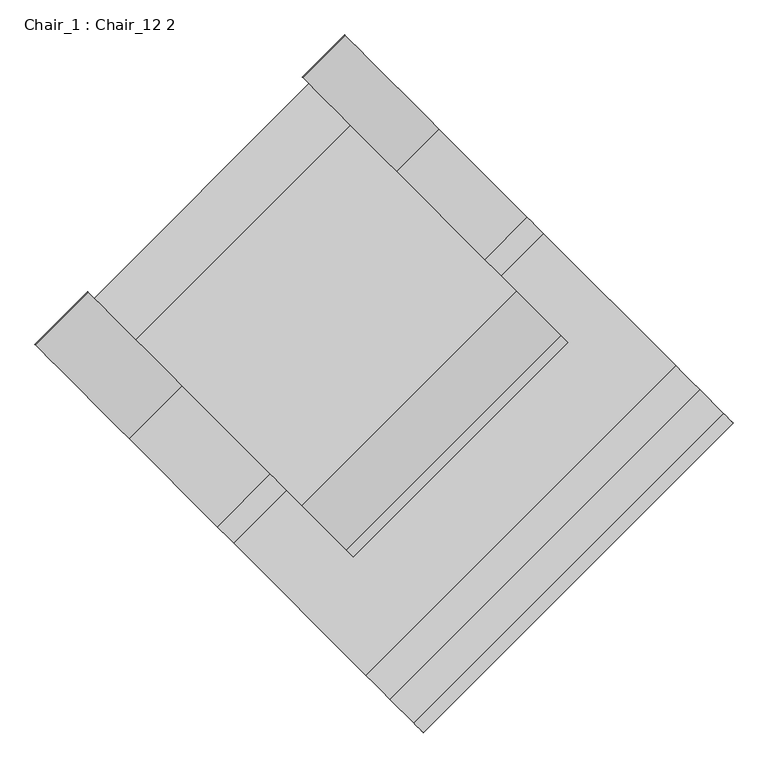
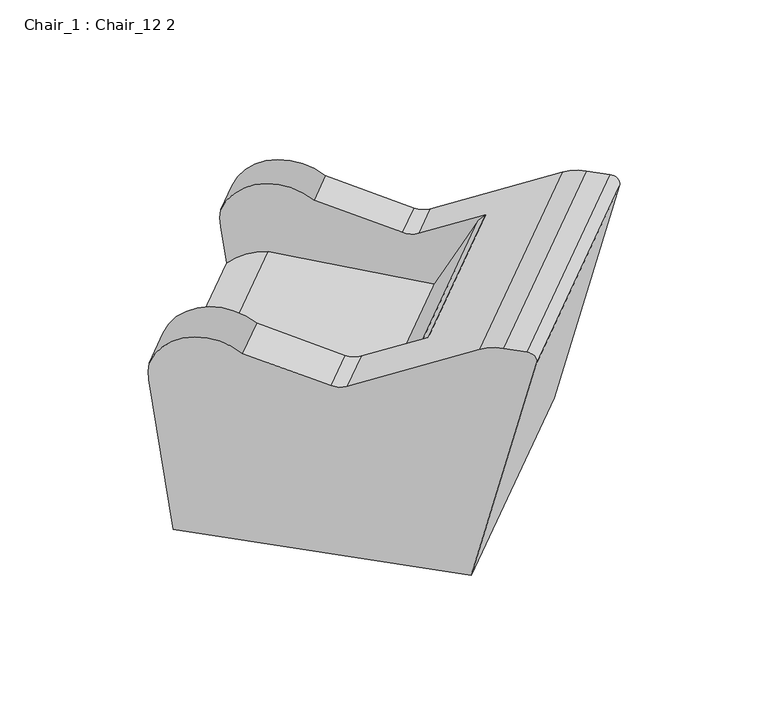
"""IFC4 building model written with IfcOpenShell, lengths in millimetres: furniture geometry, Chair_1 : Chair_12 2."""

from ifc_helpers import new_model, si_unit, frame, origin, place, context, project, spatial, polyline, circle_curve, source, transform, mapped, element, save
from ifc_brep_helpers import plane_surface, cylinder_surface, revolved_surface, advanced_brep


def chair_1_chair_12_2_918bc6ad(model_context):
    return source(origin(), model_context, "Body", "AdvancedBrep", [
        advanced_brep(
        [(-66.17603, 617.2632265, 441.2901984), (-65.8440101, 616.9312066, 492.4493711), (103.201702, 447.8854945, 564.2539103), (262.7664903, 288.3207061, 507.9908803), (292.2915528, 258.7956437, 512.7482324), (531.8039862, 19.2832103, 685.335575), (575.1416539, -24.0544575, 700.0496943), (617.9858384, -66.8986419, 700.0496943), (635.1384056, -84.0512091, 669.0016469), (517.1923973, 33.8947992, 0.0), (-22.3217675, 573.408964, 0.0), (-626.7518174, 56.6874392, 441.2901984), (-582.8975549, 12.8331766, 0.0), (-43.38339, -526.6809882, 0.0), (74.5626182, -644.6269965, 669.0016469), (57.410051, -627.4744293, 700.0496943), (14.5658666, -584.6302448, 700.0496943), (-28.7718012, -541.2925771, 685.335575), (-268.2842346, -301.7801437, 512.7482324), (-297.809297, -272.2550812, 507.9908803), (-457.3740854, -112.6902929, 564.2539103), (-626.4197975, 56.3554192, 492.4493711), (-142.6296492, 540.8096073, 441.2901984), (-142.2976293, 540.4775874, 492.4493711), (-530.9889965, 151.7862202, 492.4493711), (-531.3210164, 152.1182401, 441.2901984), (26.7480828, 371.4318753, 564.2539103), (-361.9432844, -17.2594919, 564.2539103), (186.3128712, 211.8670869, 507.9908803), (-202.378496, -176.8242803, 507.9908803), (215.8379336, 182.3420245, 512.7482324), (-172.8534336, -206.3493427, 512.7482324), (337.2732566, 60.9067015, 600.2518304), (-51.4181106, -327.7846657, 600.2518304), (-520.5398165, 141.3370402, 332.8027313), (-131.8484493, 530.0284074, 332.8027313), (243.6999015, 154.4800566, 365.3983957), (324.1151289, 74.0648292, 579.2827063), (-56.4086278, 454.5885859, 387.6411771), (-144.9914657, -234.2113106, 365.3983957), (-445.099995, 65.8972187, 387.6411771), (-64.5762383, -314.626538, 579.2827063)],
        [
            (0, 1, circle_curve(frame((62.6892224, 488.3979741, 465.1992842), z_axis=(0.7071067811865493, 0.7071067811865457, 0.0), x_axis=(0.7071067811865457, -0.7071067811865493, 0.0)), 183.8046543)),
            (1, 2, circle_curve(frame((37.849582, 513.2376145, 438.0862962), z_axis=(0.7071067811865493, 0.7071067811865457, 0.0), x_axis=(0.7071067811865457, -0.7071067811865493, 0.0)), 156.3971419)),
            (2, 3),
            (3, 4, circle_curve(frame((273.0303671, 278.0568293, 566.2086239), z_axis=(-0.7071067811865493, -0.7071067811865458, 0.0), x_axis=(0.7071067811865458, -0.7071067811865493, 0.0)), 60.0)),
            (4, 5),
            (5, 6, circle_curve(frame((575.1416539, -24.0544575, 565.0496943), z_axis=(0.7071067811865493, 0.7071067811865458, 0.0), x_axis=(0.7071067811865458, -0.7071067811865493, 0.0)), 135.0)),
            (6, 7),
            (7, 8, circle_curve(frame((617.9858384, -66.8986419, 675.0496943), z_axis=(0.7071067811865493, 0.7071067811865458, 0.0), x_axis=(0.7071067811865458, -0.7071067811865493, 0.0)), 25.0)),
            (8, 9),
            (9, 10),
            (10, 0),
            (11, 12),
            (12, 13),
            (13, 14),
            (14, 15, circle_curve(frame((57.410051, -627.4744293, 675.0496943), z_axis=(-0.7071067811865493, -0.7071067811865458, 0.0), x_axis=(0.7071067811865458, -0.7071067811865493, 0.0)), 25.0)),
            (15, 16),
            (16, 17, circle_curve(frame((14.5658666, -584.6302448, 565.0496943), z_axis=(-0.7071067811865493, -0.7071067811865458, 0.0), x_axis=(0.7071067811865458, -0.7071067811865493, 0.0)), 135.0)),
            (17, 18),
            (18, 19, circle_curve(frame((-287.5454202, -282.518958, 566.2086239), z_axis=(0.7071067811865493, 0.7071067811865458, 0.0), x_axis=(0.7071067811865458, -0.7071067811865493, 0.0)), 60.0)),
            (19, 20),
            (20, 21, circle_curve(frame((-522.7262054, -47.3381729, 438.0862962), z_axis=(-0.7071067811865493, -0.7071067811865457, 0.0), x_axis=(0.7071067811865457, -0.7071067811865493, 0.0)), 156.3971419)),
            (21, 11, circle_curve(frame((-497.886565, -72.1778133, 465.1992842), z_axis=(-0.7071067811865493, -0.7071067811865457, 0.0), x_axis=(0.7071067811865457, -0.7071067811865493, 0.0)), 183.8046543)),
            (0, 22),
            (22, 23, circle_curve(frame((-13.7643968, 411.9443549, 465.1992842), z_axis=(0.7071067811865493, 0.7071067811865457, 0.0), x_axis=(0.7071067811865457, -0.7071067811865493, 0.0)), 183.8046543)),
            (23, 1),
            (21, 24),
            (24, 25, circle_curve(frame((-402.455764, 23.2529877, 465.1992842), z_axis=(-0.7071067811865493, -0.7071067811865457, 0.0), x_axis=(0.7071067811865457, -0.7071067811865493, 0.0)), 183.8046543)),
            (25, 11),
            (23, 26, circle_curve(frame((-38.6040372, 436.7839953, 438.0862962), z_axis=(0.7071067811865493, 0.7071067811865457, 0.0), x_axis=(0.7071067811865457, -0.7071067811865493, 0.0)), 156.3971419)),
            (26, 2),
            (20, 27),
            (27, 24, circle_curve(frame((-427.2954044, 48.0926281, 438.0862962), z_axis=(-0.7071067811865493, -0.7071067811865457, 0.0), x_axis=(0.7071067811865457, -0.7071067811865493, 0.0)), 156.3971419)),
            (26, 28),
            (28, 3),
            (19, 29),
            (29, 27),
            (28, 30, circle_curve(frame((196.5767479, 201.6032102, 566.2086239), z_axis=(-0.7071067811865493, -0.7071067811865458, 0.0), x_axis=(0.7071067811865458, -0.7071067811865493, 0.0)), 60.0)),
            (30, 4),
            (18, 31),
            (31, 29, circle_curve(frame((-192.1146193, -187.088157, 566.2086239), z_axis=(0.7071067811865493, 0.7071067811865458, 0.0), x_axis=(0.7071067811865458, -0.7071067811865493, 0.0)), 60.0)),
            (30, 32),
            (32, 33),
            (33, 31),
            (17, 5),
            (16, 6),
            (15, 7),
            (14, 8),
            (13, 9),
            (12, 10),
            (25, 34),
            (34, 35),
            (35, 22),
            (36, 37),
            (37, 32, circle_curve(frame((540.8796655, -142.6997074, 325.9844543), z_axis=(0.7071067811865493, 0.7071067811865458, 0.0), x_axis=(0.7071067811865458, -0.7071067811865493, 0.0)), 397.6603238)),
            (35, 38, circle_curve(frame((-36.7490643, 434.9290224, 202.3510578), z_axis=(0.7071067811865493, 0.7071067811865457, 0.0), x_axis=(0.7071067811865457, -0.7071067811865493, 0.0)), 187.3644181)),
            (38, 36),
            (39, 40),
            (40, 34, circle_curve(frame((-425.4404315, 46.2376552, 202.3510578), z_axis=(-0.7071067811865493, -0.7071067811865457, 0.0), x_axis=(0.7071067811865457, -0.7071067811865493, 0.0)), 187.3644181)),
            (33, 41, circle_curve(frame((152.1882983, -531.3910746, 325.9844543), z_axis=(-0.7071067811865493, -0.7071067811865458, 0.0), x_axis=(0.7071067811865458, -0.7071067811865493, 0.0)), 397.6603238)),
            (41, 39),
            (38, 40),
            (39, 36),
            (41, 37),
        ],
        [
            plane_surface(frame((192.6587399, 358.4284566, 465.1992842), z_axis=(0.7071067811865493, 0.7071067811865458, 0.0), x_axis=(0.0, 0.0, -1.0))),
            plane_surface(frame((-367.9170475, -202.1473308, 465.1992842), z_axis=(-0.7071067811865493, -0.7071067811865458, 0.0), x_axis=(0.0, 0.0, 1.0))),
            cylinder_surface(frame((-497.886565, -72.1778133, 465.1992842), z_axis=(0.7071067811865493, 0.7071067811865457, 0.0), x_axis=(0.7071067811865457, -0.7071067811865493, 0.0)), 183.8046543),
            cylinder_surface(frame((-522.7262054, -47.3381729, 438.0862962), z_axis=(0.7071067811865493, 0.7071067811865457, 0.0), x_axis=(0.7071067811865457, -0.7071067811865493, 0.0)), 156.3971419),
            plane_surface(frame((103.201702, 447.8854945, 564.2539103), z_axis=(0.17106461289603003, -0.1710646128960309, 0.970295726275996), x_axis=(-0.7071067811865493, -0.7071067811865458, 0.0))),
            revolved_surface(polyline([(239.0031548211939, 159.17680327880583, 566.2086239), (315.45677402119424, 235.6304224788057, 566.2086239)]), (-287.5454202, -282.518958, 566.2086239), (-0.7071067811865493, -0.7071067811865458, 0.0)),
            revolved_surface(polyline([(-245.1190133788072, -324.9453649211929, 566.2086239), (-149.68821237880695, -229.51456392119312, 566.2086239)]), (-287.5454202, -282.518958, 566.2086239), (-0.7071067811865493, -0.7071067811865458, 0.0)),
            plane_surface(frame((292.2915528, 258.7956437, 512.7482324), z_axis=(-0.32101976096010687, 0.3210197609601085, 0.8910065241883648), x_axis=(-0.7071067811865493, -0.7071067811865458, 0.0))),
            cylinder_surface(frame((14.5658666, -584.6302448, 565.0496943), z_axis=(0.7071067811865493, 0.7071067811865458, 0.0), x_axis=(0.7071067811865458, -0.7071067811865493, 0.0)), 135.0),
            plane_surface(frame((575.1416539, -24.0544575, 700.0496943), z_axis=(0.0, 0.0, 1.0), x_axis=(-0.7071067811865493, -0.7071067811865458, 0.0))),
            cylinder_surface(frame((57.410051, -627.4744293, 675.0496943), z_axis=(0.7071067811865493, 0.7071067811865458, 0.0), x_axis=(0.7071067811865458, -0.7071067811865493, 0.0)), 25.0),
            plane_surface(frame((635.1384056, -84.0512091, 669.0016469), z_axis=(0.6861026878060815, -0.686102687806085, -0.2419218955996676), x_axis=(-0.7071067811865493, -0.7071067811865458, 0.0))),
            plane_surface(frame((517.1923973, 33.8947992, 0.0), z_axis=(0.0, 0.0, -1.0000000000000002), x_axis=(-0.7071067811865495, -0.7071067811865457, 0.0))),
            plane_surface(frame((-22.3217675, 573.408964, 0.0), z_axis=(-0.700225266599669, 0.7002252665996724, -0.13917310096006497), x_axis=(-0.7071067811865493, -0.7071067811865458, 0.0))),
            plane_surface(frame((-56.4086278, 454.5885859, 387.6411771), z_axis=(-0.7071067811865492, -0.7071067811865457, 0.0), x_axis=(-0.7061377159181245, 0.706137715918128, 0.05233595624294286))),
            plane_surface(frame((-445.099995, 65.8972187, 387.6411771), z_axis=(0.7071067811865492, 0.7071067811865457, 0.0), x_axis=(0.7061377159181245, -0.706137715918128, -0.05233595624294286))),
            plane_surface(frame((243.6999015, 154.4800566, 365.3983957), z_axis=(0.03700710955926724, -0.03700710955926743, 0.9986295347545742), x_axis=(-0.7071067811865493, -0.7071067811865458, 0.0))),
            cylinder_surface(frame((-425.4404315, 46.2376552, 202.3510578), z_axis=(-0.7071067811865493, -0.7071067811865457, 0.0), x_axis=(0.7071067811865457, -0.7071067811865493, 0.0)), 187.3644181),
            plane_surface(frame((324.1151289, 74.0648292, 579.2827063), z_axis=(-0.6243382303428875, 0.6243382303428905, 0.46947156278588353), x_axis=(-0.7071067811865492, -0.7071067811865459, 0.0))),
            cylinder_surface(frame((152.1882983, -531.3910746, 325.9844543), z_axis=(-0.7071067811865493, -0.7071067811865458, 0.0), x_axis=(0.7071067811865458, -0.7071067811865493, 0.0)), 397.6603238),
        ],
        [
            (0, [[1, 2, 3, 4, 5, 6, 7, 8, 9, 10, 11]]),
            (1, [[12, 13, 14, 15, 16, 17, 18, 19, 20, 21, 22]]),
            (2, [[-1, 23, 24, 25]]),
            (2, [[-22, 26, 27, 28]]),
            (3, [[-2, -25, 29, 30]]),
            (3, [[-21, 31, 32, -26]]),
            (4, [[-3, -30, 33, 34]]),
            (4, [[-20, 35, 36, -31]]),
            (5, [[-4, -34, 37, 38]]),
            (6, [[-19, 39, 40, -35]]),
            (7, [[-5, -38, 41, 42, 43, -39, -18, 44]]),
            (8, [[-6, -44, -17, 45]]),
            (9, [[-7, -45, -16, 46]]),
            (10, [[-8, -46, -15, 47]]),
            (11, [[-9, -47, -14, 48]]),
            (12, [[-10, -48, -13, 49]]),
            (13, [[-11, -49, -12, -28, 50, 51, 52, -23]]),
            (14, [[53, 54, -41, -37, -33, -29, -24, -52, 55, 56]]),
            (15, [[57, 58, -50, -27, -32, -36, -40, -43, 59, 60]]),
            (16, [[-56, 61, -57, 62]]),
            (17, [[-61, -55, -51, -58]]),
            (18, [[-53, -62, -60, 63]]),
            (19, [[-63, -59, -42, -54]]),
        ],
    ),
    ])


if __name__ == "__main__":
    model = new_model("IFC4")
    model_context = context("Model", 3, world=origin())
    ifc_project = project(units=[si_unit("LENGTHUNIT", "METRE", prefix="MILLI")], contexts=[model_context])
    site = spatial("IfcSite", under=ifc_project)
    building = spatial("IfcBuilding", under=site)
    placement = place(None, origin())
    chair_1_chair_12_2_shape = chair_1_chair_12_2_918bc6ad(model_context)
    element("IfcFurniture", 1, ObjectType="Chair_1 : Chair_12 2", at=placement, inside=building, context=model_context, shape_type="MappedRepresentation", body=[
        mapped(chair_1_chair_12_2_shape, transform((0.0, 0.0, 0.0), x_axis=(1.0, 0.0, 0.0), y_axis=(0.0, 1.0, 0.0), z_axis=(0.0, 0.0, 1.0))),
    ])
    save(model, "model.ifc")
